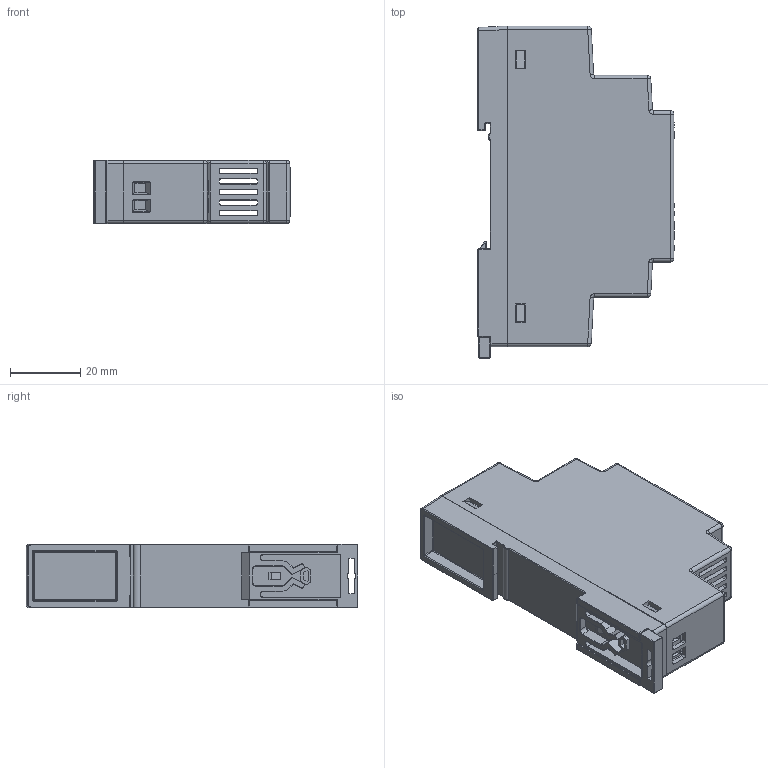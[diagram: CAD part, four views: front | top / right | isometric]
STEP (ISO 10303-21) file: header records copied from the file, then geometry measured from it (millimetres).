
FILE_DESCRIPTION((''),'2;1');
FILE_NAME('DRC-24V10W1AZ_ASM','2013-04-04T',('Manop.Pr'),(''),'PRO/ENGINEER BY PARAMETRIC TECHNOLOGY CORPORATION, 2010180','PRO/ENGINEER BY PARAMETRIC TECHNOLOGY CORPORATION, 2010180','');
FILE_SCHEMA(('CONFIG_CONTROL_DESIGN','SHAPE_APPEARANCE_LAYERS_GROUPS'));
Products named in the file (10): 330DT78400; 330DT78500; 3421026502; PWB; 1; 2; 3; MB310-500M02_ASM; LOGOLABEL; DRC-24V10W1AZ_ASM
Assembly tree (10 placements, depth 3):
  DRC-24V10W1AZ_ASM
    330DT78400
    330DT78500
    3421026502
    PWB
    MB310-500M02_ASM  x2
      1
      2
      3
    LOGOLABEL
Bounding box: 55.65 x 94.2 x 18 mm (x, y, z)
Volume: 22619 mm3; surface area: 33215.6 mm2
Topology: 11 solids, 11 shells, 2016 faces, 5248 edges, 3369 vertices
Faces by surface type: plane 1101, cylinder 423, extrusion 337, sphere 68, torus 59, bspline 18, cone 10
Entity records: 77680 total; most frequent: CARTESIAN_POINT 16739, ORIENTED_EDGE 9850, DIRECTION 8117, PRESENTATION_STYLE_ASSIGNMENT 4940, EDGE_CURVE 4925, STYLED_ITEM 4862, CURVE_STYLE 4835, VECTOR 3713
